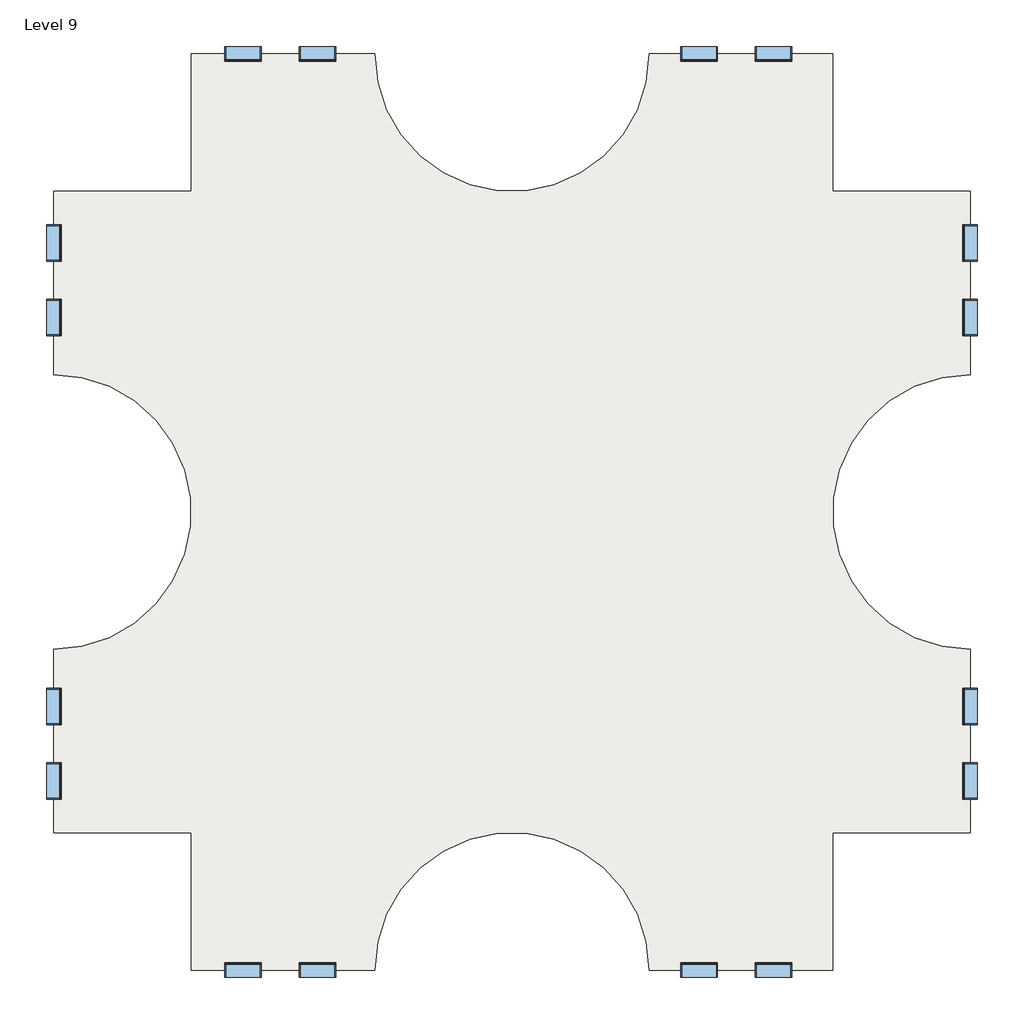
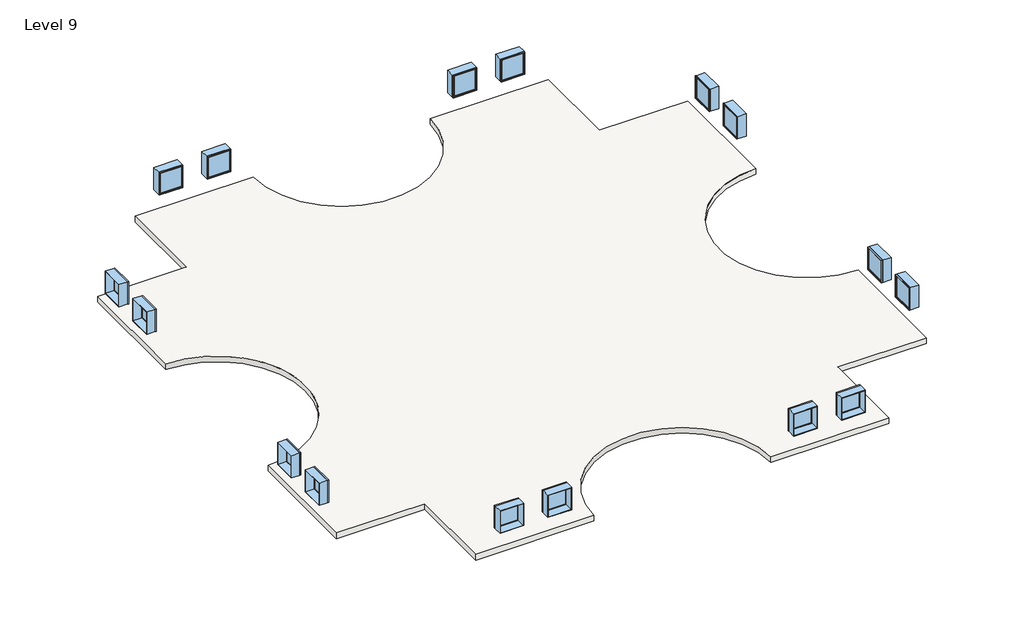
# One storey: 16 windows, 2 slabs.
"""IFC4 building model written with IfcOpenShell, lengths in millimetres."""

import ifcopenshell
import ifcopenshell.guid

model = None  # the IFC model being written
_history = None  # IfcOwnerHistory: only IFC2X3 demands one
_inside = {}  # id of a spatial element -> (the spatial element, [elements in it])
_under = {}  # id of a project, library or spatial element -> (it, [spatial elements below it])
_declared = {}  # id of a project -> (the project, [libraries it declares])
_typed = {}  # id of a type object -> (the type object, [elements of that type])
_made_of = {}  # id of a material, layer set ... -> (it, [elements and type objects made of it])


def new_model(schema):
    """Start an empty IFC model of exactly this schema.

    Asked for "IFC4X3", IfcOpenShell would pick the latest addendum, in which some entities
    have other attributes; the version numbers below select the first issue.
    IFC2X3 requires an IfcOwnerHistory on every rooted entity: one is made here for all.
    """
    global model, _history
    if schema == "IFC4X3":
        model = ifcopenshell.file(schema_version=(4, 3, 0, 0))
    else:
        model = ifcopenshell.file(schema=schema)
    _inside.clear()
    _under.clear()
    _declared.clear()
    _typed.clear()
    _made_of.clear()
    _history = None
    if model.schema == "IFC2X3":
        org = make("IfcOrganization", Name="unknown")
        user = make(
            "IfcPersonAndOrganization",
            ThePerson=make("IfcPerson", FamilyName="unknown"),
            TheOrganization=org,
        )
        app = make(
            "IfcApplication",
            ApplicationDeveloper=org,
            Version="unknown",
            ApplicationFullName="unknown",
            ApplicationIdentifier="unknown",
        )
        _history = make(
            "IfcOwnerHistory",
            OwningUser=user,
            OwningApplication=app,
            ChangeAction="ADDED",
            CreationDate=0,
        )
    return model


def make(cls, **values):
    """One entity of the class cls with the attributes given. An attribute that is None is left unset."""
    return model.create_entity(
        cls, **{name: value for name, value in values.items() if value is not None}
    )


def rooted(cls, **values):
    """An entity with a GlobalId (a new one), such as an element, a storey or a relation."""
    return make(cls, GlobalId=ifcopenshell.guid.new(), OwnerHistory=_history, **values)


def si_unit(unit_type, name, prefix=None):
    """IfcSIUnit, for example si_unit("LENGTHUNIT", "METRE", prefix="MILLI")."""
    return make("IfcSIUnit", UnitType=unit_type, Prefix=prefix, Name=name)


def assignment(units):
    """IfcUnitAssignment: the units of a project."""
    return None if units is None else make("IfcUnitAssignment", Units=units)


def point(xyz):
    """IfcCartesianPoint."""
    return None if xyz is None else make("IfcCartesianPoint", Coordinates=xyz)


def direction(xyz):
    """IfcDirection."""
    return None if xyz is None else make("IfcDirection", DirectionRatios=xyz)


def frame(location, z_axis=None, x_axis=None):
    """IfcAxis2Placement3D, a coordinate frame: its origin and axes. An axis left out is left unset."""
    return make(
        "IfcAxis2Placement3D",
        Location=point(location),
        Axis=direction(z_axis),
        RefDirection=direction(x_axis),
    )


def frame_2d(location, x_axis=None):
    """IfcAxis2Placement2D, a coordinate frame in the plane: its origin and x axis."""
    return make(
        "IfcAxis2Placement2D", Location=point(location), RefDirection=direction(x_axis)
    )


def origin():
    """The frame at (0, 0, 0) with its axes left unset."""
    return frame((0.0, 0.0, 0.0))


def place(relative_to, where):
    """IfcLocalPlacement: puts the frame where relative to a parent placement (None: the world)."""
    return make(
        "IfcLocalPlacement", PlacementRelTo=relative_to, RelativePlacement=where
    )


def context(
    kind, dimensions, precision=None, world=None, true_north=None, identifier=None
):
    """IfcGeometricRepresentationContext, for example the 3D "Model" context."""
    return make(
        "IfcGeometricRepresentationContext",
        ContextIdentifier=identifier,
        ContextType=kind,
        CoordinateSpaceDimension=dimensions,
        Precision=precision,
        WorldCoordinateSystem=world,
        TrueNorth=true_north,
    )


def project(units=None, contexts=None):
    """IfcProject with its units and contexts."""
    return rooted(
        "IfcProject",
        Name="project",
        RepresentationContexts=contexts,
        UnitsInContext=assignment(units),
    )


def spatial(cls, under=None, at=None, **own):
    """A site, building, storey or space (cls), placed at a placement, below another one or the project."""
    s = rooted(cls, ObjectPlacement=at, **own)
    if under is not None:
        _under.setdefault(under.id(), (under, []))[1].append(s)
    return s


def polyline(points):
    """IfcPolyline through the points."""
    return make("IfcPolyline", Points=[point(p) for p in points])


def circle_curve(where, radius):
    """IfcCircle in the frame where."""
    return make("IfcCircle", Position=where, Radius=radius)


def trimmed(basis, trim1, trim2, sense, master):
    """IfcTrimmedCurve: the piece of a basis curve between two trims."""
    return make(
        "IfcTrimmedCurve",
        BasisCurve=basis,
        Trim1=trim1,
        Trim2=trim2,
        SenseAgreement=sense,
        MasterRepresentation=master,
    )


def segment(curve, same_sense, transition):
    """IfcCompositeCurveSegment."""
    return make(
        "IfcCompositeCurveSegment",
        Transition=transition,
        SameSense=same_sense,
        ParentCurve=curve,
    )


def composite_curve(segments, self_intersect=None):
    """IfcCompositeCurve: segments joined end to end."""
    return make("IfcCompositeCurve", Segments=segments, SelfIntersect=self_intersect)


def outline(outer, holes=None, kind="AREA"):
    """IfcArbitraryClosedProfileDef: a profile drawn as a closed curve; with holes, ...WithVoids."""
    if holes is None:
        return make("IfcArbitraryClosedProfileDef", ProfileType=kind, OuterCurve=outer)
    return make(
        "IfcArbitraryProfileDefWithVoids",
        ProfileType=kind,
        OuterCurve=outer,
        InnerCurves=holes,
    )


def extrude(swept, where, along, depth):
    """IfcExtrudedAreaSolid: the profile swept, set in the frame where, extruded along a direction by depth."""
    return make(
        "IfcExtrudedAreaSolid",
        SweptArea=swept,
        Position=where,
        ExtrudedDirection=direction(along),
        Depth=depth,
    )


def shape(context_of_items, identifier, shape_type, items):
    """IfcShapeRepresentation: the items that make up one representation, for example the "Body"."""
    return make(
        "IfcShapeRepresentation",
        ContextOfItems=context_of_items,
        RepresentationIdentifier=identifier,
        RepresentationType=shape_type,
        Items=items,
    )


def source(mapping_origin, context_of_items, identifier, shape_type, items):
    """IfcRepresentationMap: a shape defined once, which mapped items show again and again."""
    return make(
        "IfcRepresentationMap",
        MappingOrigin=mapping_origin,
        MappedRepresentation=shape(context_of_items, identifier, shape_type, items),
    )


def transform(
    local_origin,
    x_axis=None,
    y_axis=None,
    z_axis=None,
    scale=None,
    scale2=None,
    scale3=None,
    uniform=True,
):
    """IfcCartesianTransformationOperator3D, or its non-uniform kind. x_axis, y_axis, z_axis: its Axis1, 2, 3."""
    if uniform:
        return make(
            "IfcCartesianTransformationOperator3D",
            Axis1=direction(x_axis),
            Axis2=direction(y_axis),
            LocalOrigin=point(local_origin),
            Scale=scale,
            Axis3=direction(z_axis),
        )
    return make(
        "IfcCartesianTransformationOperator3DnonUniform",
        Axis1=direction(x_axis),
        Axis2=direction(y_axis),
        LocalOrigin=point(local_origin),
        Scale=scale,
        Axis3=direction(z_axis),
        Scale2=scale2,
        Scale3=scale3,
    )


def mapped(mapping_source, mapping_target):
    """IfcMappedItem: shows the shape of a source again, moved by a transform."""
    return make(
        "IfcMappedItem", MappingSource=mapping_source, MappingTarget=mapping_target
    )


def made_of(thing, what):
    """Note that an element or type object is made of a material, layer set ...; save() writes the relation."""
    if what is not None:
        _made_of.setdefault(what.id(), (what, []))[1].append(thing)
    return thing


def element(
    cls,
    number,
    at=None,
    inside=None,
    cuts=None,
    type_object=None,
    material=None,
    context=None,
    identifier="Body",
    shape_type=None,
    held_by="IfcProductDefinitionShape",
    body=None,
    shapes=None,
    **own,
):
    """One element of the class cls, such as IfcWall. Its Tag is "e" and its number.

    at: its placement. inside: the storey or other place that contains it. cuts: it is an
    opening in that element (IfcRelVoidsElement). A single representation is given by context,
    identifier, shape_type and body (its items); several are given by shapes. held_by: the class
    of the entity that holds the representations. save() writes the other relations.
    """
    e = rooted(cls, Tag="e%d" % number, ObjectPlacement=at, **own)
    if body is not None:
        shapes = [shape(context, identifier, shape_type, body)]
    if shapes is not None:
        e.Representation = make(held_by, Representations=shapes)
    if inside is not None:
        _inside.setdefault(inside.id(), (inside, []))[1].append(e)
    if cuts is not None:
        rooted(
            "IfcRelVoidsElement", RelatingBuildingElement=cuts, RelatedOpeningElement=e
        )
    if type_object is not None:
        _typed.setdefault(type_object.id(), (type_object, []))[1].append(e)
    return made_of(e, material)


def aggregate(whole, parts):
    """IfcRelAggregates: a whole, such as a stair, and the parts it consists of."""
    return rooted("IfcRelAggregates", RelatingObject=whole, RelatedObjects=parts)


def save(model, path):
    """Write the relations noted so far, then the file.

    IfcRelAggregates (storeys below a building ...), IfcRelContainedInSpatialStructure (elements
    in a storey), IfcRelDefinesByType, IfcRelAssociatesMaterial and IfcRelDeclares: one each for
    every whole, place, type object, material and project.
    """
    for whole, parts in _under.values():
        aggregate(whole, parts)
    for where, things in _inside.values():
        rooted(
            "IfcRelContainedInSpatialStructure",
            RelatedElements=things,
            RelatingStructure=where,
        )
    for kind, things in _typed.values():
        rooted("IfcRelDefinesByType", RelatedObjects=things, RelatingType=kind)
    for what, things in _made_of.values():
        rooted("IfcRelAssociatesMaterial", RelatedObjects=things, RelatingMaterial=what)
    for by, libraries in _declared.values():
        rooted("IfcRelDeclares", RelatingContext=by, RelatedDefinitions=libraries)
    model.write(path)


def window_d0035ecf(model_context):
    return source(origin(), model_context, "Body", "SweptSolid", [
        extrude(outline(polyline([(508.0, 200.025), (-584.2, 200.025), (-584.2, 212.725), (508.0, 212.725), (508.0, 200.025)])), frame((0.0, 0.0, 977.9), z_axis=(0.0, 0.0, 1.0), x_axis=(1.0, 0.0, 0.0)), (0.0, 0.0, 1.0), 1092.2),
        extrude(outline(polyline([(2114.55, -628.65), (933.45, -628.65), (933.45, 552.45), (2114.55, 552.45), (2114.55, -628.65)]), holes=[polyline([(2070.1, -584.2), (2070.1, 508.0), (977.9, 508.0), (977.9, -584.2), (2070.1, -584.2)])]), frame((0.0, 184.15, 0.0), z_axis=(0.0, 1.0, 0.0), x_axis=(0.0, 0.0, 1.0)), (0.0, 0.0, 1.0), 44.45),
        extrude(outline(polyline([(2133.6, -647.7), (914.4, -647.7), (914.4, 571.5), (2133.6, 571.5), (2133.6, -647.7)]), holes=[polyline([(2101.85, -615.95), (2101.85, 539.75), (946.15, 539.75), (946.15, -615.95), (2101.85, -615.95)])]), frame((0.0, -247.65, 0.0), z_axis=(0.0, 1.0, 0.0), x_axis=(0.0, 0.0, 1.0)), (0.0, 0.0, 1.0), 431.8),
        extrude(outline(polyline([(2133.6, 571.5), (2133.6, -647.7), (914.4, -647.7), (914.4, 571.5), (2133.6, 571.5)]), holes=[polyline([(2114.55, 552.45), (933.45, 552.45), (933.45, -628.65), (2114.55, -628.65), (2114.55, 552.45)])]), frame((0.0, 184.15, 0.0), z_axis=(0.0, 1.0, 0.0), x_axis=(0.0, 0.0, 1.0)), (0.0, 0.0, 1.0), 63.5),
    ])


def window_d434eb62(model_context):
    return source(origin(), model_context, "Body", "SweptSolid", [
        extrude(outline(polyline([(508.0, -200.025), (508.0, -212.725), (-584.2, -212.725), (-584.2, -200.025), (508.0, -200.025)])), frame((0.0, 0.0, 977.9), z_axis=(0.0, 0.0, 1.0), x_axis=(1.0, 0.0, 0.0)), (0.0, 0.0, 1.0), 1092.2),
        extrude(outline(polyline([(2114.55, -628.65), (933.45, -628.65), (933.45, 552.45), (2114.55, 552.45), (2114.55, -628.65)]), holes=[polyline([(2070.1, -584.2), (2070.1, 508.0), (977.9, 508.0), (977.9, -584.2), (2070.1, -584.2)])]), frame((0.0, -228.6, 0.0), z_axis=(0.0, 1.0, 0.0), x_axis=(0.0, 0.0, 1.0)), (0.0, 0.0, 1.0), 44.45),
        extrude(outline(polyline([(2133.6, -647.7), (914.4, -647.7), (914.4, 571.5), (2133.6, 571.5), (2133.6, -647.7)]), holes=[polyline([(2101.85, -615.95), (2101.85, 539.75), (946.15, 539.75), (946.15, -615.95), (2101.85, -615.95)])]), frame((0.0, -184.15, 0.0), z_axis=(0.0, 1.0, 0.0), x_axis=(0.0, 0.0, 1.0)), (0.0, 0.0, 1.0), 431.8),
        extrude(outline(polyline([(2133.6, 571.5), (2133.6, -647.7), (914.4, -647.7), (914.4, 571.5), (2133.6, 571.5)]), holes=[polyline([(2114.55, 552.45), (933.45, 552.45), (933.45, -628.65), (2114.55, -628.65), (2114.55, 552.45)])]), frame((0.0, -247.65, 0.0), z_axis=(0.0, 1.0, 0.0), x_axis=(0.0, 0.0, 1.0)), (0.0, 0.0, 1.0), 63.5),
    ])


model = new_model("IFC4")

# Units and contexts
model_context = context("Model", 3, world=origin())
ifc_project = project(units=[si_unit("LENGTHUNIT", "METRE", prefix="MILLI")], contexts=[model_context])

# Site, building, storey
site = spatial("IfcSite", under=ifc_project)
building = spatial("IfcBuilding", under=site)
storey = spatial("IfcBuildingStorey", under=building, Name="Level 9", Elevation=24384.0)

# Slabs
placement = place(None, origin())
element("IfcSlab", 1, ObjectType="Generic - 12\"", at=placement, inside=storey, context=model_context, shape_type="SweptSolid", body=[
    extrude(outline(composite_curve([segment(polyline([(-7150.3629456, 4479.6634547), (-7150.3629456, 9051.6634547), (-1054.3629456, 9051.6634547)]), True, "CONTINUOUS"), segment(trimmed(circle_curve(frame_2d((3517.6370544, 9051.6634547)), 4572.0), [point((-1054.3629456, 9051.6634547))], [point((8089.6370544, 9051.6634547))], True, "CARTESIAN"), True, "CONTINUOUS"), segment(polyline([(8089.6370544, 9051.6634547), (14185.6370544, 9051.6634547), (14185.6370544, 4479.6634547), (18757.6370544, 4479.6634547), (18757.6370544, -1616.3365453)]), True, "CONTINUOUS"), segment(trimmed(circle_curve(frame_2d((18757.6370544, -6188.3365453)), 4572.0), [point((18757.6370544, -1616.3365453))], [point((18757.6370544, -10760.3365453))], True, "CARTESIAN"), True, "CONTINUOUS"), segment(polyline([(18757.6370544, -10760.3365453), (18757.6370544, -16856.3365453), (14185.6370544, -16856.3365453), (14185.6370544, -21428.3365453), (8089.6370544, -21428.3365453)]), True, "CONTINUOUS"), segment(trimmed(circle_curve(frame_2d((3517.6370544, -21428.3365453)), 4572.0), [point((8089.6370544, -21428.3365453))], [point((-1054.3629456, -21428.3365453))], True, "CARTESIAN"), True, "CONTINUOUS"), segment(polyline([(-1054.3629456, -21428.3365453), (-7150.3629456, -21428.3365453), (-7150.3629456, -16856.3365453), (-11722.3629456, -16856.3365453), (-11722.3629456, -10760.3365453)]), True, "CONTINUOUS"), segment(trimmed(circle_curve(frame_2d((-11722.3629456, -6188.3365453)), 4572.0), [point((-11722.3629456, -10760.3365453))], [point((-11722.3629456, -1616.3365453))], True, "CARTESIAN"), True, "CONTINUOUS"), segment(polyline([(-11722.3629456, -1616.3365453), (-11722.3629456, 4479.6634547), (-7150.3629456, 4479.6634547)]), True, "CONTINUOUS")], self_intersect=False)), frame((0.0, 0.0, 24079.2), z_axis=(0.0, 0.0, 1.0), x_axis=(1.0, 0.0, 0.0)), (0.0, 0.0, 1.0), 304.8),
])
element("IfcSlab", 2, ObjectType="Generic - 12\"", at=placement, inside=storey, context=model_context, shape_type="SweptSolid", body=[
    extrude(outline(composite_curve([segment(polyline([(-7150.3629456, 4479.6634547), (-7150.3629456, 9051.6634547), (-1054.3629456, 9051.6634547)]), True, "CONTINUOUS"), segment(trimmed(circle_curve(frame_2d((3517.6370544, 9051.6634547)), 4572.0), [point((-1054.3629456, 9051.6634547))], [point((8089.6370544, 9051.6634547))], True, "CARTESIAN"), True, "CONTINUOUS"), segment(polyline([(8089.6370544, 9051.6634547), (14185.6370544, 9051.6634547), (14185.6370544, 4479.6634547), (18757.6370544, 4479.6634547), (18757.6370544, -1616.3365453)]), True, "CONTINUOUS"), segment(trimmed(circle_curve(frame_2d((18757.6370544, -6188.3365453)), 4572.0), [point((18757.6370544, -1616.3365453))], [point((18757.6370544, -10760.3365453))], True, "CARTESIAN"), True, "CONTINUOUS"), segment(polyline([(18757.6370544, -10760.3365453), (18757.6370544, -16856.3365453), (14185.6370544, -16856.3365453), (14185.6370544, -21428.3365453), (8089.6370544, -21428.3365453)]), True, "CONTINUOUS"), segment(trimmed(circle_curve(frame_2d((3517.6370544, -21428.3365453)), 4572.0), [point((8089.6370544, -21428.3365453))], [point((-1054.3629456, -21428.3365453))], True, "CARTESIAN"), True, "CONTINUOUS"), segment(polyline([(-1054.3629456, -21428.3365453), (-7150.3629456, -21428.3365453), (-7150.3629456, -16856.3365453), (-11722.3629456, -16856.3365453), (-11722.3629456, -10760.3365453)]), True, "CONTINUOUS"), segment(trimmed(circle_curve(frame_2d((-11722.3629456, -6188.3365453)), 4572.0), [point((-11722.3629456, -10760.3365453))], [point((-11722.3629456, -1616.3365453))], True, "CARTESIAN"), True, "CONTINUOUS"), segment(polyline([(-11722.3629456, -1616.3365453), (-11722.3629456, 4479.6634547), (-7150.3629456, 4479.6634547)]), True, "CONTINUOUS")], self_intersect=False)), frame((0.0, 0.0, 24079.2), z_axis=(0.0, 0.0, 1.0), x_axis=(1.0, 0.0, 0.0)), (0.0, 0.0, 1.0), 304.8),
])

# Windows
window_shape = window_d0035ecf(model_context)
element("IfcWindow", 3, ObjectType="Fixed : 48\" x 48\"", at=placement, inside=storey, context=model_context, shape_type="MappedRepresentation", body=[
    mapped(window_shape, transform((-11719.1879456, 247.3884547, 24384.0), x_axis=(0.0, -1.0, 0.0), y_axis=(1.0, 0.0, 0.0), z_axis=(0.0, 0.0, 1.0))),
])
element("IfcWindow", 4, ObjectType="Fixed : 48\" x 48\"", at=placement, inside=storey, context=model_context, shape_type="MappedRepresentation", body=[
    mapped(window_shape, transform((-5469.1993281, 9048.4884547, 24384.0), x_axis=(-1.0, 0.0, 0.0), y_axis=(0.0, -1.0, 0.0), z_axis=(0.0, 0.0, 1.0))),
])
element("IfcWindow", 5, ObjectType="Fixed : 48\" x 48\"", at=placement, inside=storey, context=model_context, shape_type="MappedRepresentation", body=[
    mapped(window_shape, transform((-11719.1879456, -15175.1729277, 24384.0), x_axis=(0.0, -1.0, 0.0), y_axis=(1.0, 0.0, 0.0), z_axis=(0.0, 0.0, 1.0))),
])
element("IfcWindow", 6, ObjectType="Fixed : 48\" x 48\"", at=placement, inside=storey, context=model_context, shape_type="MappedRepresentation", body=[
    mapped(window_shape, transform((-2918.0879456, -21425.1615453, 24384.0), x_axis=(1.0, 0.0, 0.0), y_axis=(0.0, 1.0, 0.0), z_axis=(0.0, 0.0, 1.0))),
])
element("IfcWindow", 7, ObjectType="Fixed : 48\" x 48\"", at=placement, inside=storey, context=model_context, shape_type="MappedRepresentation", body=[
    mapped(window_shape, transform((18754.4620544, 2798.4998372, 24384.0), x_axis=(0.0, 1.0, 0.0), y_axis=(-1.0, 0.0, 0.0), z_axis=(0.0, 0.0, 1.0))),
])
element("IfcWindow", 8, ObjectType="Fixed : 48\" x 48\"", at=placement, inside=storey, context=model_context, shape_type="MappedRepresentation", body=[
    mapped(window_shape, transform((9705.7120544, 9048.4884547, 24384.0), x_axis=(-1.0, 0.0, 0.0), y_axis=(0.0, -1.0, 0.0), z_axis=(0.0, 0.0, 1.0))),
])
element("IfcWindow", 9, ObjectType="Fixed : 48\" x 48\"", at=placement, inside=storey, context=model_context, shape_type="MappedRepresentation", body=[
    mapped(window_shape, transform((18754.4620544, -12624.0615453, 24384.0), x_axis=(0.0, 1.0, 0.0), y_axis=(-1.0, 0.0, 0.0), z_axis=(0.0, 0.0, 1.0))),
])
element("IfcWindow", 10, ObjectType="Fixed : 48\" x 48\"", at=placement, inside=storey, context=model_context, shape_type="MappedRepresentation", body=[
    mapped(window_shape, transform((12256.8234368, -21425.1615453, 24384.0), x_axis=(1.0, 0.0, 0.0), y_axis=(0.0, 1.0, 0.0), z_axis=(0.0, 0.0, 1.0))),
])
window_2_shape = window_d434eb62(model_context)
element("IfcWindow", 11, ObjectType="Fixed : 48\" x 48\"", at=placement, inside=storey, context=model_context, shape_type="MappedRepresentation", body=[
    mapped(window_2_shape, transform((-11719.1879456, 2798.4998372, 24384.0), x_axis=(0.0, 1.0, 0.0), y_axis=(-1.0, 0.0, 0.0), z_axis=(0.0, 0.0, 1.0))),
])
element("IfcWindow", 12, ObjectType="Fixed : 48\" x 48\"", at=placement, inside=storey, context=model_context, shape_type="MappedRepresentation", body=[
    mapped(window_2_shape, transform((-2918.0879456, 9048.4884547, 24384.0), x_axis=(1.0, 0.0, 0.0), y_axis=(0.0, 1.0, 0.0), z_axis=(0.0, 0.0, 1.0))),
])
element("IfcWindow", 13, ObjectType="Fixed : 48\" x 48\"", at=placement, inside=storey, context=model_context, shape_type="MappedRepresentation", body=[
    mapped(window_2_shape, transform((-11719.1879456, -12624.0615453, 24384.0), x_axis=(0.0, 1.0, 0.0), y_axis=(-1.0, 0.0, 0.0), z_axis=(0.0, 0.0, 1.0))),
])
element("IfcWindow", 14, ObjectType="Fixed : 48\" x 48\"", at=placement, inside=storey, context=model_context, shape_type="MappedRepresentation", body=[
    mapped(window_2_shape, transform((-5469.1993281, -21425.1615453, 24384.0), x_axis=(-1.0, 0.0, 0.0), y_axis=(0.0, -1.0, 0.0), z_axis=(0.0, 0.0, 1.0))),
])
element("IfcWindow", 15, ObjectType="Fixed : 48\" x 48\"", at=placement, inside=storey, context=model_context, shape_type="MappedRepresentation", body=[
    mapped(window_2_shape, transform((18754.4620544, 247.3884547, 24384.0), x_axis=(0.0, -1.0, 0.0), y_axis=(1.0, 0.0, 0.0), z_axis=(0.0, 0.0, 1.0))),
])
element("IfcWindow", 16, ObjectType="Fixed : 48\" x 48\"", at=placement, inside=storey, context=model_context, shape_type="MappedRepresentation", body=[
    mapped(window_2_shape, transform((12256.8234368, 9048.4884547, 24384.0), x_axis=(1.0, 0.0, 0.0), y_axis=(0.0, 1.0, 0.0), z_axis=(0.0, 0.0, 1.0))),
])
element("IfcWindow", 17, ObjectType="Fixed : 48\" x 48\"", at=placement, inside=storey, context=model_context, shape_type="MappedRepresentation", body=[
    mapped(window_2_shape, transform((18754.4620544, -15175.1729277, 24384.0), x_axis=(0.0, -1.0, 0.0), y_axis=(1.0, 0.0, 0.0), z_axis=(0.0, 0.0, 1.0))),
])
element("IfcWindow", 18, ObjectType="Fixed : 48\" x 48\"", at=placement, inside=storey, context=model_context, shape_type="MappedRepresentation", body=[
    mapped(window_2_shape, transform((9705.7120544, -21425.1615453, 24384.0), x_axis=(-1.0, 0.0, 0.0), y_axis=(0.0, -1.0, 0.0), z_axis=(0.0, 0.0, 1.0))),
])

save(model, "model.ifc")
